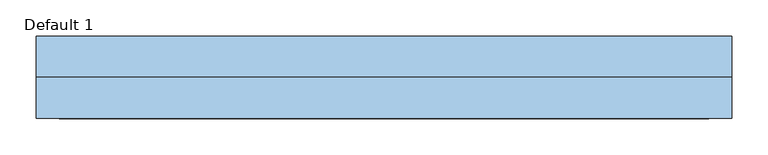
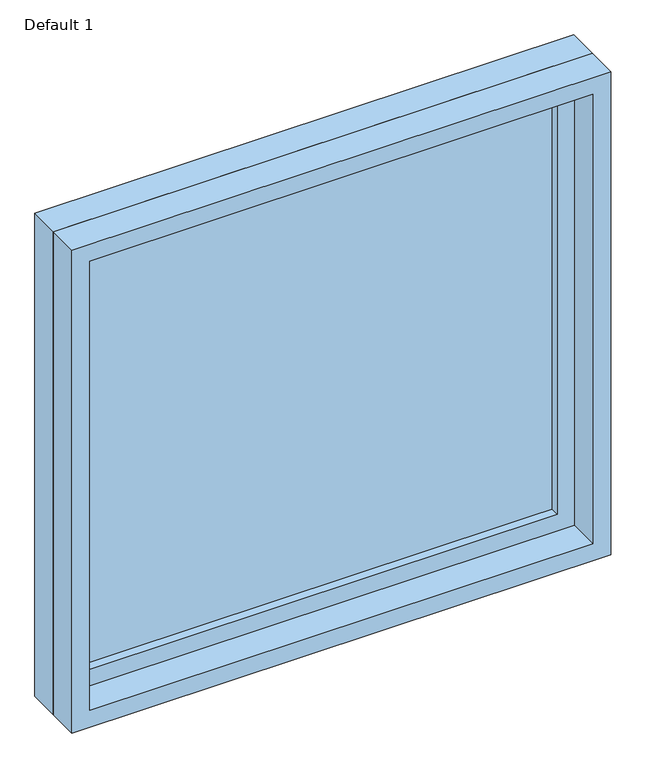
"""IFC4 building model written with IfcOpenShell, lengths in millimetres: window geometry, Planitar-Fixed : Default 1."""

from ifc_helpers import new_model, si_unit, frame, origin, place, context, project, spatial, polyline, outline, extrude, source, transform, mapped, element, save


def default_1_0f471e2e(model_context):
    return source(origin(), model_context, "Body", "SweptSolid", [
        extrude(outline(polyline([(1809.8, -463.6), (933.4, -463.6), (933.4, 463.6), (1809.8, 463.6), (1809.8, -463.6)]), holes=[polyline([(1765.8, -419.6), (1765.8, 419.6), (977.4, 419.6), (977.4, -419.6), (1765.8, -419.6)])]), frame((0.0, 13.45, 0.0), z_axis=(0.0, 1.0, 0.0), x_axis=(0.0, 0.0, 1.0)), (0.0, 0.0, 1.0), 44.0),
        extrude(outline(polyline([(1828.8, -482.6), (914.4, -482.6), (914.4, 482.6), (1828.8, 482.6), (1828.8, -482.6)]), holes=[polyline([(1809.8, -463.6), (1809.8, 463.6), (933.4, 463.6), (933.4, -463.6), (1809.8, -463.6)])]), frame((0.0, 13.45, 0.0), z_axis=(0.0, 1.0, 0.0), x_axis=(0.0, 0.0, 1.0)), (0.0, 0.0, 1.0), 56.7),
        extrude(outline(polyline([(1828.8, -482.6), (914.4, -482.6), (914.4, 482.6), (1828.8, 482.6), (1828.8, -482.6)]), holes=[polyline([(1796.8, -450.6), (1796.8, 450.6), (946.4, 450.6), (946.4, -450.6), (1796.8, -450.6)])]), frame((0.0, -44.15, 0.0), z_axis=(0.0, 1.0, 0.0), x_axis=(0.0, 0.0, 1.0)), (0.0, 0.0, 1.0), 57.6),
        extrude(outline(polyline([(-419.6, 41.45), (419.6, 41.45), (419.6, 29.45), (-419.6, 29.45), (-419.6, 41.45)])), frame((0.0, 0.0, 977.4), z_axis=(0.0, 0.0, 1.0), x_axis=(1.0, 0.0, 0.0)), (0.0, 0.0, 1.0), 788.4),
    ])


if __name__ == "__main__":
    model = new_model("IFC4")
    model_context = context("Model", 3, world=origin())
    ifc_project = project(units=[si_unit("LENGTHUNIT", "METRE", prefix="MILLI")], contexts=[model_context])
    site = spatial("IfcSite", under=ifc_project)
    building = spatial("IfcBuilding", under=site)
    placement = place(None, origin())
    default_1_shape = default_1_0f471e2e(model_context)
    element("IfcWindow", 1, ObjectType="Planitar-Fixed : Default 1", at=placement, inside=building, context=model_context, shape_type="MappedRepresentation", body=[
        mapped(default_1_shape, transform((0.0, 0.0, 0.0), x_axis=(1.0, 0.0, 0.0), y_axis=(0.0, 1.0, 0.0), z_axis=(0.0, 0.0, 1.0))),
    ])
    save(model, "model.ifc")
